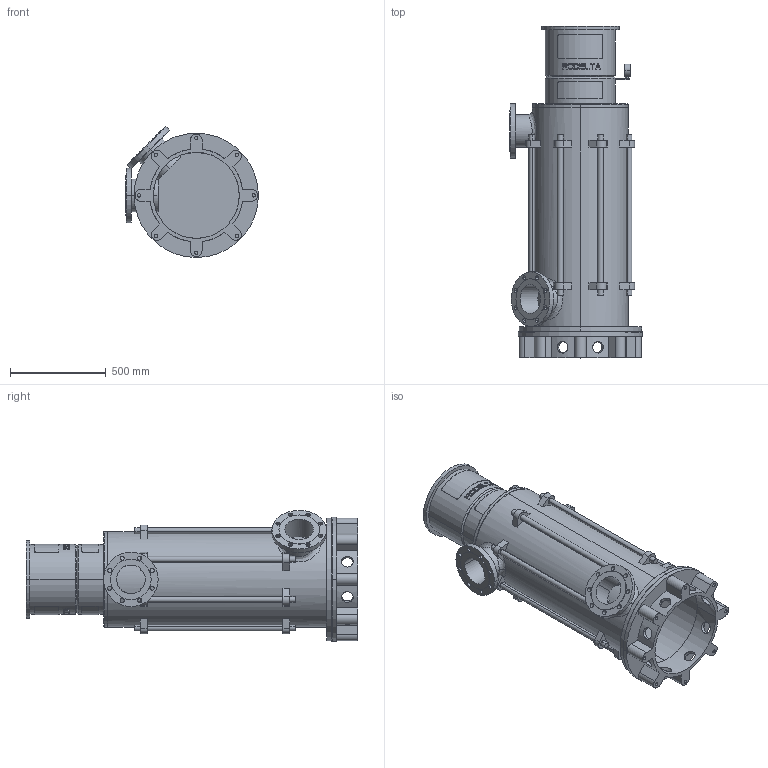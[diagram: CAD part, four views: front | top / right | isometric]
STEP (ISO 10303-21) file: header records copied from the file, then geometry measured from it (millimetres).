
FILE_DESCRIPTION((''),'2;1');
FILE_NAME('LS6_5TR_0GR_PN16_TOT_30KW','2025-10-23T16:06:54',('Lyritlocal'),(''),'CREO PARAMETRIC BY PTC INC, 2022014','CREO PARAMETRIC BY PTC INC, 2022014','');
FILE_SCHEMA(('CONFIG_CONTROL_DESIGN'));
Length unit declared in the file: millimetre
Products named in the file (1): LS6_5TR_0GR_PN16_TOT_30KW
Bounding box: 695 x 1735 x 685.27 mm (x, y, z)
Volume: 52530666.7 mm3; surface area: 7319932.3 mm2
Topology: 3 solids, 11 shells, 732 faces, 1889 edges, 1258 vertices
Faces by surface type: plane 438, cylinder 274, cone 12, bspline 8
Entity records: 24200 total; most frequent: CARTESIAN_POINT 6380, ORIENTED_EDGE 3746, DIRECTION 3535, EDGE_CURVE 1889, AXIS2_PLACEMENT_3D 1341, VERTEX_POINT 1258, EDGE_LOOP 895, VECTOR 853
